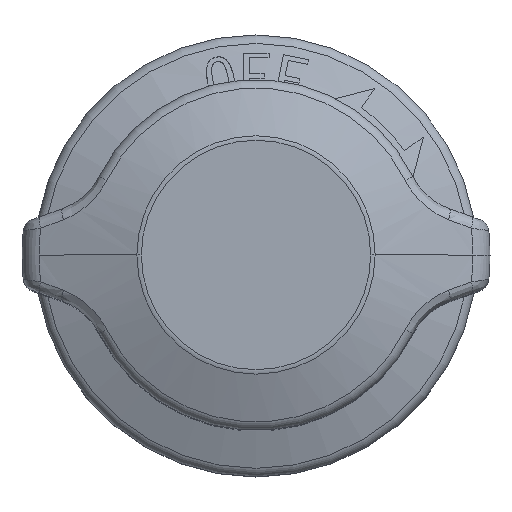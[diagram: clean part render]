
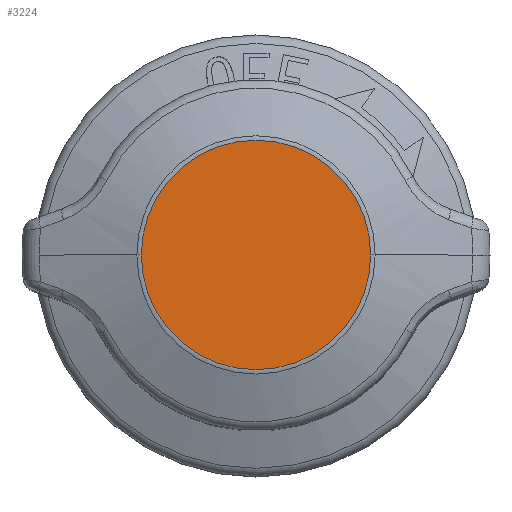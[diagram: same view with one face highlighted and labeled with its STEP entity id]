
A CAD part, top view. The second image highlights one B-rep face of the part: STEP entity #3224.
In plain terms, the highlighted planar face has unit normal (0, 0, 1) as drawn and (0, 0, -1) by its records, which use the part's own axes.
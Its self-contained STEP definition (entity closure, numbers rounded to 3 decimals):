
#652 = DIRECTION ( 'NONE',  ( 0., -1., 0. ) ) ;
#686 = VERTEX_POINT ( 'NONE', #1719 ) ;
#1283 = CARTESIAN_POINT ( 'NONE',  ( 0., 0., -50. ) ) ;
#1304 = VERTEX_POINT ( 'NONE', #7632 ) ;
#1388 = CARTESIAN_POINT ( 'NONE',  ( 13.5, 0., -50. ) ) ;
#1719 = CARTESIAN_POINT ( 'NONE',  ( 0., -8.824, -50. ) ) ;
#2690 = CIRCLE ( 'NONE', #7064, 8.824 ) ;
#2824 = FACE_OUTER_BOUND ( 'NONE', #8167, .T. ) ;
#3224 = ADVANCED_FACE ( 'NONE', ( #2824 ), #6729, .F. ) ;
#3547 = DIRECTION ( 'NONE',  ( 0., 0., -1. ) ) ;
#3701 = ORIENTED_EDGE ( 'NONE', *, *, #6308, .T. ) ;
#3769 = CIRCLE ( 'NONE', #6732, 8.824 ) ;
#3892 = DIRECTION ( 'NONE',  ( 0., -1., 0. ) ) ;
#4699 = AXIS2_PLACEMENT_3D ( 'NONE', #1388, #7309, #652 ) ;
#4985 = EDGE_CURVE ( 'NONE', #686, #1304, #3769, .T. ) ;
#5369 = CARTESIAN_POINT ( 'NONE',  ( 0., 0., -50. ) ) ;
#5776 = ORIENTED_EDGE ( 'NONE', *, *, #4985, .T. ) ;
#6308 = EDGE_CURVE ( 'NONE', #1304, #686, #2690, .T. ) ;
#6515 = DIRECTION ( 'NONE',  ( 0., -1., 0. ) ) ;
#6729 = PLANE ( 'NONE',  #4699 ) ;
#6732 = AXIS2_PLACEMENT_3D ( 'NONE', #1283, #3547, #6515 ) ;
#7064 = AXIS2_PLACEMENT_3D ( 'NONE', #5369, #7605, #3892 ) ;
#7309 = DIRECTION ( 'NONE',  ( 0., 0., 1. ) ) ;
#7605 = DIRECTION ( 'NONE',  ( 0., 0., -1. ) ) ;
#7632 = CARTESIAN_POINT ( 'NONE',  ( 0., 8.824, -50. ) ) ;
#8167 = EDGE_LOOP ( 'NONE', ( #5776, #3701 ) ) ;
